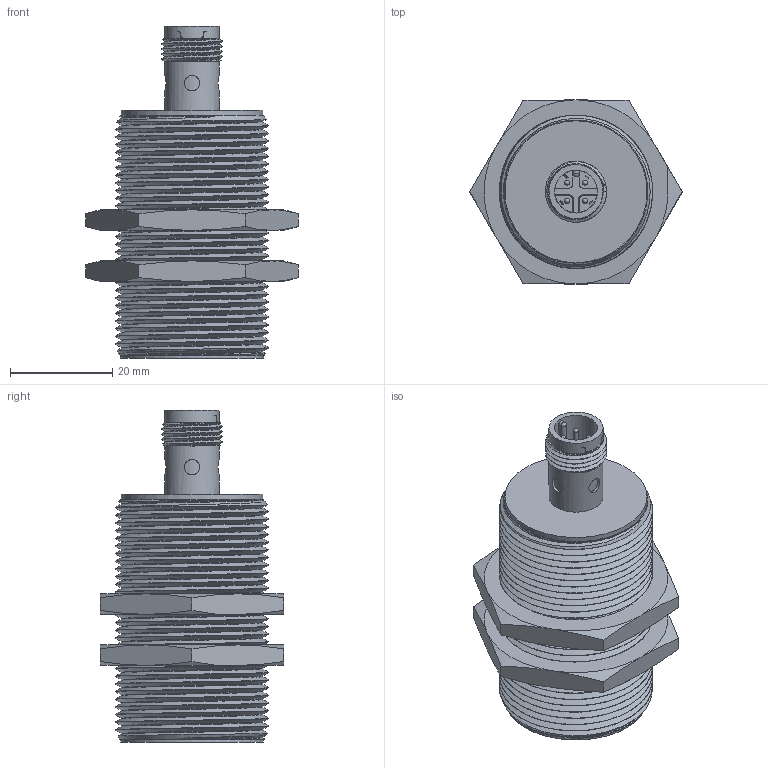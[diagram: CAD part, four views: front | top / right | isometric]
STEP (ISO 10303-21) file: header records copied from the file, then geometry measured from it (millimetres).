
FILE_DESCRIPTION(/* description */ (''),/* implementation_level */ '2;1');
FILE_NAME(/* name */ '3DCAD_IS_D30MM_2NC_15E_M12.stp',/* time_stamp */ '2025-04-30T11:33:12+02:00',/* author */ ('CC2'),/* organization */ ('Leuze electronic'),/* preprocessor_version */ 'ST-DEVELOPER v19.4',/* originating_system */ 'SIEMENS PLM Software NX2306.9180',/* authorisation */ '');
FILE_SCHEMA (('AUTOMOTIVE_DESIGN { 1 0 10303 214 3 1 1 1 }'));
Length unit declared in the file: millimetre
Products named in the file (2): 012169_00.0_1-SKT-Mutter M30 SW36; 19-103877_00_1-3DCAD_IS_D30MM_2NC_15E_M12
Assembly tree (2 placements, depth 2):
  19-103877_00_1-3DCAD_IS_D30MM_2NC_15E_M12
    012169_00.0_1-SKT-Mutter M30 SW36  x2
Bounding box: 41.57 x 36 x 65 mm (x, y, z)
Volume: 35772.4 mm3; surface area: 14623.8 mm2
Topology: 3 solids, 6 shells, 265 faces, 771 edges, 519 vertices
Faces by surface type: plane 120, cylinder 66, bspline 31, extrusion 26, torus 10, cone 7, sphere 5
Full cylindrical faces by diameter (mm): 1 x5, 1.029 x1, 3 x4, 8.4 x1, 9.5 x3, 9.6 x3, 10.6 x2, 27.8 x1, 28 x1, 28.376 x2
Entity records: 18200 total; most frequent: CARTESIAN_POINT 12393, ORIENTED_EDGE 1288, DIRECTION 1001, EDGE_CURVE 644, VERTEX_POINT 448, VECTOR 335, AXIS2_PLACEMENT_3D 333, LINE 309
